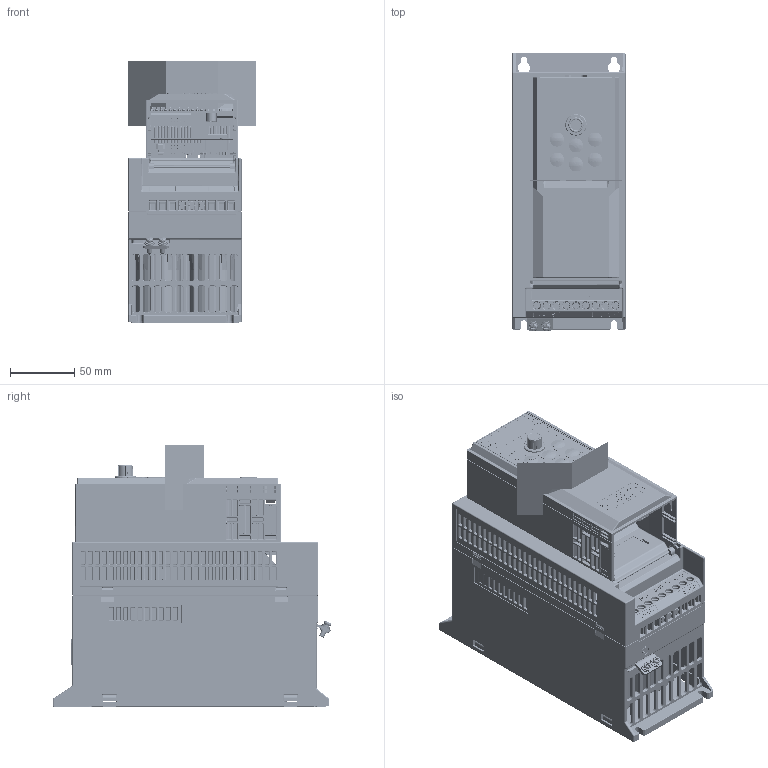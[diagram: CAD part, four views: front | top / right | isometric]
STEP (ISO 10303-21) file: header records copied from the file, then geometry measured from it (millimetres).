
FILE_DESCRIPTION((''),'2;1');
FILE_NAME('AD800-D2-DRIVE_ASM','2024-12-11T09:49:54',('Optimus Drive'),(''),'CREO PARAMETRIC BY PTC INC, 2018100','CREO PARAMETRIC BY PTC INC, 2018100','');
FILE_SCHEMA(('CONFIG_CONTROL_DESIGN','GEOMETRIC_VALIDATION_PROPERTIES_MIM'));
Products named in the file (57): D2_MECHANICAL_PART; E0200004-B; E0400127; E0400017; M0202003; AD800-D2-PU_ASM; M0104149; E0100736; E0400142; E0400150; E0400073; E0400116; E0400023; E0100736_ASM; E0200416; M0104143; E0400117; E0100735; 0603; SOT-23; SO-14; E0300000; SOD-6; E0300008; LQFP64; 1206; SMD3215-2P; 0805; SO-8; P3_5_3_2_; SMM0207; SOT-223; TO252; SC70-6; 1210; E0400035; E0400118; E0400011; E0100735_ASM; M0104016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
Assembly tree (373 placements, depth 5):
  AD800-D2-DRIVE_ASM
    AD800-D2-PU_ASM
      D2_MECHANICAL_PART
      E0200004-B  x2
      E0400127
      E0400017
      M0202003  x2
    CU04-ASSY_ASM
      M0104149
      E0100736_ASM
        E0100736
        E0400142
        E0400150
        E0400073  x2
        E0400116
        E0400023
      E0200416
      M0104143
      E0400117
      E0100735_ASM
        E0100735
        0603  x193
        SOT-23  x51
        SO-14  x2
        E0300000
        SOD-6  x4
        E0300008  x2
        LQFP64
        E0400116
        1206  x32
        SMD3215-2P
        0805  x20
        SO-8  x2
        P3_5_3_2_
        SMM0207  x2
        SOT-223
        TO252
        SC70-6
        1210  x2
        E0400035
        E0400118
        E0400023
        E0400011
      EXTERNAL_KEYPAD_ASM
        M0104016
        M0104018
        E0100102_ASM
          E0100102
          0805-LED  x6
          E0300012
          E0200191
          E0200192
          E0400038  x6
          E0400035
          E0400011
        M0104017
        M0203163
      M0203158
      M0203159
      M0104150
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Bounding box: 100 x 216.34 x 203 mm (x, y, z)
Volume: 1531997.5 mm3; surface area: 582103.1 mm2
Topology: 392 solids, 456 shells, 31281 faces, 81343 edges, 51925 vertices
Faces by surface type: plane 19289, cylinder 6053, bspline 2090, extrusion 1849, cone 1026, torus 547, sphere 427
Entity records: 1105354 total; most frequent: CARTESIAN_POINT 283336, ORIENTED_EDGE 128904, DIRECTION 107360, EDGE_CURVE 64596, PRESENTATION_STYLE_ASSIGNMENT 61771, STYLED_ITEM 58792, CURVE_STYLE 53547, VECTOR 45538
